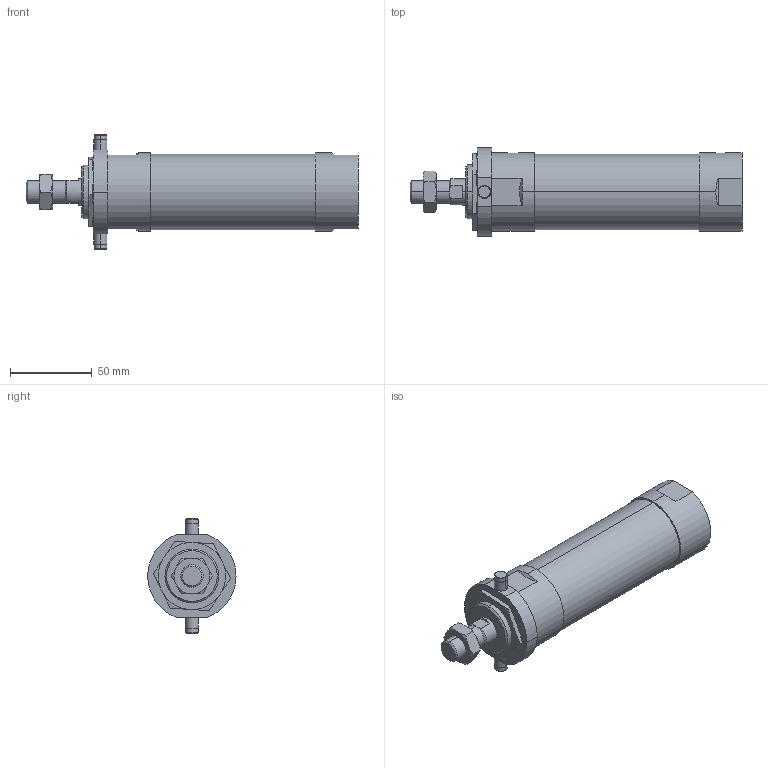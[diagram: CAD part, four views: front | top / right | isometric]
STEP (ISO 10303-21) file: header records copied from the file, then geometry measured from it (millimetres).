
FILE_DESCRIPTION (( 'STEP AP203' ), '1' );
FILE_NAME ('JGND2-40-50-T.STEP', '2016-08-04T03:06:16', ( '' ), ( '' ), 'SwSTEP 2.0', 'SolidWorks 2014', '' );
FILE_SCHEMA (( 'CONFIG_CONTROL_DESIGN' ));
Length unit declared in the file: millimetre
Products named in the file (5): J#2-40-50(P); JGND2-40-50-T; J#2-40-T
Assembly tree (4 placements, depth 2):
  JGND2-40-50-T
    J#2-40-50(P)
    (unnamed)
    (unnamed)
    J#2-40-T
Bounding box: 203 x 53.91 x 70 mm (x, y, z)
Volume: 295228.8 mm3; surface area: 39900.4 mm2
Topology: 4 solids, 4 shells, 116 faces, 269 edges, 165 vertices
Faces by surface type: plane 38, cylinder 33, torus 24, cone 21
Entity records: 4135 total; most frequent: CARTESIAN_POINT 1032, DIRECTION 550, ORIENTED_EDGE 530, EDGE_CURVE 265, AXIS2_PLACEMENT_3D 225, VERTEX_POINT 165, EDGE_LOOP 130, ADVANCED_FACE 116
